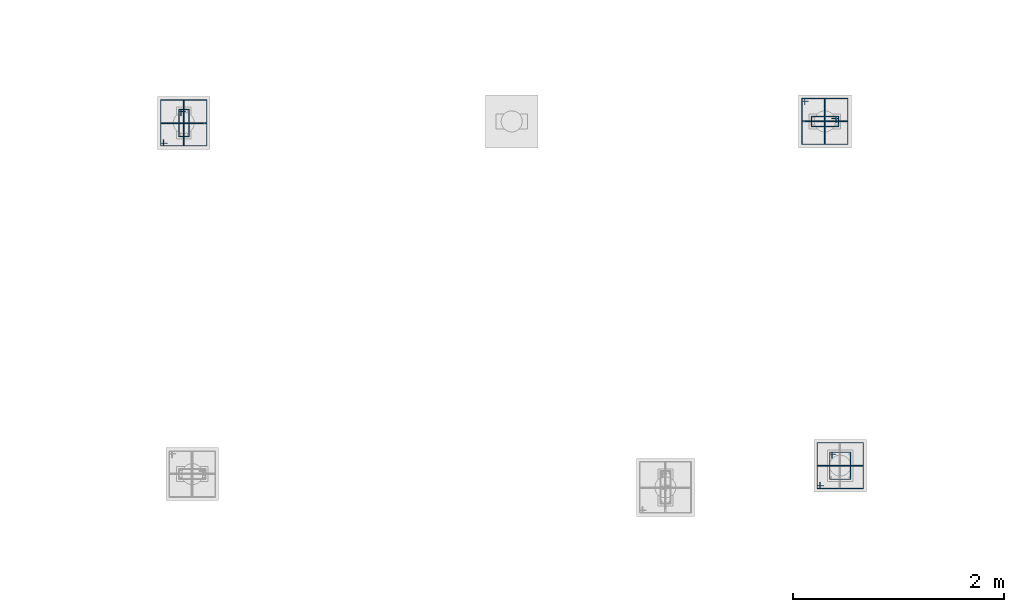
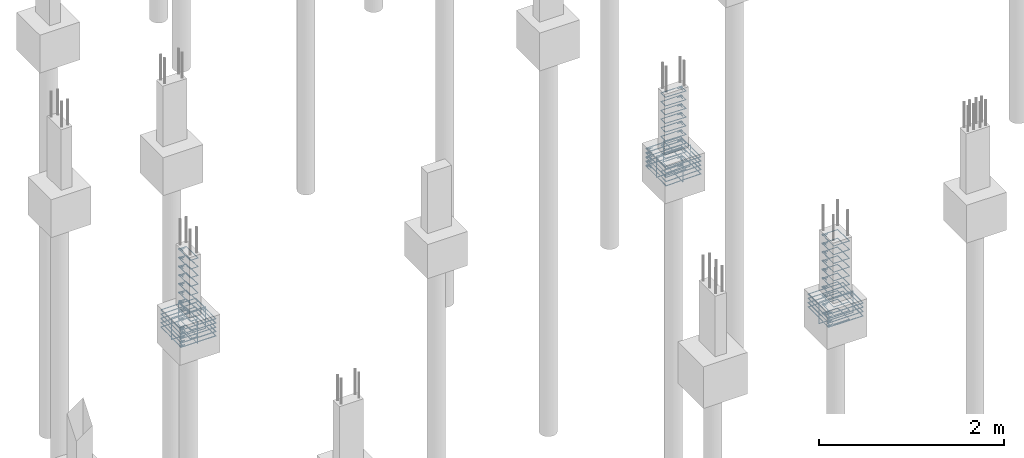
# One storey, part 92 of 119: 49 reinforcing bars.
"""IFC4 building model written with IfcOpenShell, lengths in centimetres."""

import ifcopenshell
import ifcopenshell.guid

model = None  # the IFC model being written
_history = None  # IfcOwnerHistory: only IFC2X3 demands one
_inside = {}  # id of a spatial element -> (the spatial element, [elements in it])
_under = {}  # id of a project, library or spatial element -> (it, [spatial elements below it])
_declared = {}  # id of a project -> (the project, [libraries it declares])
_typed = {}  # id of a type object -> (the type object, [elements of that type])
_made_of = {}  # id of a material, layer set ... -> (it, [elements and type objects made of it])


def new_model(schema):
    """Start an empty IFC model of exactly this schema.

    Asked for "IFC4X3", IfcOpenShell would pick the latest addendum, in which some entities
    have other attributes; the version numbers below select the first issue.
    IFC2X3 requires an IfcOwnerHistory on every rooted entity: one is made here for all.
    """
    global model, _history
    if schema == "IFC4X3":
        model = ifcopenshell.file(schema_version=(4, 3, 0, 0))
    else:
        model = ifcopenshell.file(schema=schema)
    _inside.clear()
    _under.clear()
    _declared.clear()
    _typed.clear()
    _made_of.clear()
    _history = None
    if model.schema == "IFC2X3":
        org = make("IfcOrganization", Name="unknown")
        user = make(
            "IfcPersonAndOrganization",
            ThePerson=make("IfcPerson", FamilyName="unknown"),
            TheOrganization=org,
        )
        app = make(
            "IfcApplication",
            ApplicationDeveloper=org,
            Version="unknown",
            ApplicationFullName="unknown",
            ApplicationIdentifier="unknown",
        )
        _history = make(
            "IfcOwnerHistory",
            OwningUser=user,
            OwningApplication=app,
            ChangeAction="ADDED",
            CreationDate=0,
        )
    return model


def make(cls, **values):
    """One entity of the class cls with the attributes given. An attribute that is None is left unset."""
    return model.create_entity(
        cls, **{name: value for name, value in values.items() if value is not None}
    )


def entity(cls, *values):
    """Any entity or typed value of the class cls, its attributes in the order of the schema. None: left unset."""
    e = model.create_entity(cls)
    for i, value in enumerate(values):
        if value is not None:
            e[i] = value
    return e


def rooted(cls, **values):
    """An entity with a GlobalId (a new one), such as an element, a storey or a relation."""
    return make(cls, GlobalId=ifcopenshell.guid.new(), OwnerHistory=_history, **values)


def si_unit(unit_type, name, prefix=None):
    """IfcSIUnit, for example si_unit("LENGTHUNIT", "METRE", prefix="MILLI")."""
    return make("IfcSIUnit", UnitType=unit_type, Prefix=prefix, Name=name)


def derived_unit(unit_type, elements):
    """IfcDerivedUnit: a product of units, each with its exponent."""
    return make(
        "IfcDerivedUnit",
        Elements=[
            make("IfcDerivedUnitElement", Unit=unit, Exponent=power)
            for unit, power in elements
        ],
        UnitType=unit_type,
    )


def assignment(units):
    """IfcUnitAssignment: the units of a project."""
    return None if units is None else make("IfcUnitAssignment", Units=units)


def point(xyz):
    """IfcCartesianPoint."""
    return None if xyz is None else make("IfcCartesianPoint", Coordinates=xyz)


def direction(xyz):
    """IfcDirection."""
    return None if xyz is None else make("IfcDirection", DirectionRatios=xyz)


def frame(location, z_axis=None, x_axis=None):
    """IfcAxis2Placement3D, a coordinate frame: its origin and axes. An axis left out is left unset."""
    return make(
        "IfcAxis2Placement3D",
        Location=point(location),
        Axis=direction(z_axis),
        RefDirection=direction(x_axis),
    )


def origin_with_axes():
    """The frame at (0, 0, 0) with the z axis (0, 0, 1) and the x axis (1, 0, 0) written out."""
    return frame((0.0, 0.0, 0.0), z_axis=(0.0, 0.0, 1.0), x_axis=(1.0, 0.0, 0.0))


def place(relative_to, where):
    """IfcLocalPlacement: puts the frame where relative to a parent placement (None: the world)."""
    return make(
        "IfcLocalPlacement", PlacementRelTo=relative_to, RelativePlacement=where
    )


def context(
    kind, dimensions, precision=None, world=None, true_north=None, identifier=None
):
    """IfcGeometricRepresentationContext, for example the 3D "Model" context."""
    return make(
        "IfcGeometricRepresentationContext",
        ContextIdentifier=identifier,
        ContextType=kind,
        CoordinateSpaceDimension=dimensions,
        Precision=precision,
        WorldCoordinateSystem=world,
        TrueNorth=true_north,
    )


def project(units=None, contexts=None):
    """IfcProject with its units and contexts."""
    return rooted(
        "IfcProject",
        Name="project",
        RepresentationContexts=contexts,
        UnitsInContext=assignment(units),
    )


def spatial(cls, under=None, at=None, **own):
    """A site, building, storey or space (cls), placed at a placement, below another one or the project."""
    s = rooted(cls, ObjectPlacement=at, **own)
    if under is not None:
        _under.setdefault(under.id(), (under, []))[1].append(s)
    return s


def shape(context_of_items, identifier, shape_type, items):
    """IfcShapeRepresentation: the items that make up one representation, for example the "Body"."""
    return make(
        "IfcShapeRepresentation",
        ContextOfItems=context_of_items,
        RepresentationIdentifier=identifier,
        RepresentationType=shape_type,
        Items=items,
    )


def source(mapping_origin, context_of_items, identifier, shape_type, items):
    """IfcRepresentationMap: a shape defined once, which mapped items show again and again."""
    return make(
        "IfcRepresentationMap",
        MappingOrigin=mapping_origin,
        MappedRepresentation=shape(context_of_items, identifier, shape_type, items),
    )


def transform(
    local_origin,
    x_axis=None,
    y_axis=None,
    z_axis=None,
    scale=None,
    scale2=None,
    scale3=None,
    uniform=True,
):
    """IfcCartesianTransformationOperator3D, or its non-uniform kind. x_axis, y_axis, z_axis: its Axis1, 2, 3."""
    if uniform:
        return make(
            "IfcCartesianTransformationOperator3D",
            Axis1=direction(x_axis),
            Axis2=direction(y_axis),
            LocalOrigin=point(local_origin),
            Scale=scale,
            Axis3=direction(z_axis),
        )
    return make(
        "IfcCartesianTransformationOperator3DnonUniform",
        Axis1=direction(x_axis),
        Axis2=direction(y_axis),
        LocalOrigin=point(local_origin),
        Scale=scale,
        Axis3=direction(z_axis),
        Scale2=scale2,
        Scale3=scale3,
    )


def mapped(mapping_source, mapping_target):
    """IfcMappedItem: shows the shape of a source again, moved by a transform."""
    return make(
        "IfcMappedItem", MappingSource=mapping_source, MappingTarget=mapping_target
    )


def made_of(thing, what):
    """Note that an element or type object is made of a material, layer set ...; save() writes the relation."""
    if what is not None:
        _made_of.setdefault(what.id(), (what, []))[1].append(thing)
    return thing


def element(
    cls,
    number,
    at=None,
    inside=None,
    cuts=None,
    type_object=None,
    material=None,
    context=None,
    identifier="Body",
    shape_type=None,
    held_by="IfcProductDefinitionShape",
    body=None,
    shapes=None,
    **own,
):
    """One element of the class cls, such as IfcWall. Its Tag is "e" and its number.

    at: its placement. inside: the storey or other place that contains it. cuts: it is an
    opening in that element (IfcRelVoidsElement). A single representation is given by context,
    identifier, shape_type and body (its items); several are given by shapes. held_by: the class
    of the entity that holds the representations. save() writes the other relations.
    """
    e = rooted(cls, Tag="e%d" % number, ObjectPlacement=at, **own)
    if body is not None:
        shapes = [shape(context, identifier, shape_type, body)]
    if shapes is not None:
        e.Representation = make(held_by, Representations=shapes)
    if inside is not None:
        _inside.setdefault(inside.id(), (inside, []))[1].append(e)
    if cuts is not None:
        rooted(
            "IfcRelVoidsElement", RelatingBuildingElement=cuts, RelatedOpeningElement=e
        )
    if type_object is not None:
        _typed.setdefault(type_object.id(), (type_object, []))[1].append(e)
    return made_of(e, material)


def aggregate(whole, parts):
    """IfcRelAggregates: a whole, such as a stair, and the parts it consists of."""
    return rooted("IfcRelAggregates", RelatingObject=whole, RelatedObjects=parts)


def save(model, path):
    """Write the relations noted so far, then the file.

    IfcRelAggregates (storeys below a building ...), IfcRelContainedInSpatialStructure (elements
    in a storey), IfcRelDefinesByType, IfcRelAssociatesMaterial and IfcRelDeclares: one each for
    every whole, place, type object, material and project.
    """
    for whole, parts in _under.values():
        aggregate(whole, parts)
    for where, things in _inside.values():
        rooted(
            "IfcRelContainedInSpatialStructure",
            RelatedElements=things,
            RelatingStructure=where,
        )
    for kind, things in _typed.values():
        rooted("IfcRelDefinesByType", RelatedObjects=things, RelatingType=kind)
    for what, things in _made_of.values():
        rooted("IfcRelAssociatesMaterial", RelatedObjects=things, RelatingMaterial=what)
    for by, libraries in _declared.values():
        rooted("IfcRelDeclares", RelatingContext=by, RelatedDefinitions=libraries)
    model.write(path)


model = new_model("IFC4")

# Units and contexts
model_context = context("Model", 3, precision=1e-05, world=origin_with_axes(), identifier="Body")
ifc_project = project(units=[si_unit("LENGTHUNIT", "METRE", prefix="CENTI"), si_unit("VOLUMEUNIT", "CUBIC_METRE"), si_unit("AREAUNIT", "SQUARE_METRE"), si_unit("POWERUNIT", "WATT"), si_unit("LUMINOUSFLUXUNIT", "LUMEN"), si_unit("ELECTRICCURRENTUNIT", "AMPERE"), si_unit("PRESSUREUNIT", "PASCAL", prefix="KILO"), si_unit("MASSUNIT", "GRAM", prefix="KILO"), si_unit("PLANEANGLEUNIT", "RADIAN"), derived_unit("VOLUMETRICFLOWRATEUNIT", [(si_unit("LENGTHUNIT", "METRE"), 3), (si_unit("TIMEUNIT", "SECOND"), -1)])], contexts=[model_context])

# Site, building, storey
site_placement = place(None, frame((-4000.0, 0.0, 0.0), z_axis=(0.0, 0.0, 1.0), x_axis=(1.0, 0.0, 0.0)))
site = spatial("IfcSite", under=ifc_project, at=site_placement, Name="PADRÃO")
building_placement = place(site_placement, frame((0.0, 0.0, -14.0)))
building = spatial("IfcBuilding", under=site, at=building_placement, Name="CRECHE PRÉ-ESCOLA TIPO 2")
storey_placement = place(building_placement, origin_with_axes())
storey = spatial("IfcBuildingStorey", under=building, at=storey_placement, Name="FUNDAÇÃO", CompositionType="ELEMENT", Elevation=-14.0)

# Reinforcing bars
shared_shape_1 = source(origin_with_axes(), model_context, "Body", "AdvancedSweptSolid", [
    entity("IfcSweptDiskSolid", entity("IfcCompositeCurve", [entity("IfcCompositeCurveSegment", "CONTINUOUS", True, entity("IfcPolyline", [entity("IfcCartesianPoint", [4.25, 21.75, 0.0]), entity("IfcCartesianPoint", [4.25, 27.75, 0.0])])), entity("IfcCompositeCurveSegment", "CONTINUOUS", True, entity("IfcPolyline", [entity("IfcCartesianPoint", [4.25, 27.75, 0.0]), entity("IfcCartesianPoint", [2.25, 27.75, 0.0])])), entity("IfcCompositeCurveSegment", "CONTINUOUS", True, entity("IfcPolyline", [entity("IfcCartesianPoint", [2.25, 27.75, 0.0]), entity("IfcCartesianPoint", [2.25, 2.25, 0.0])])), entity("IfcCompositeCurveSegment", "CONTINUOUS", True, entity("IfcPolyline", [entity("IfcCartesianPoint", [2.25, 2.25, 0.0]), entity("IfcCartesianPoint", [11.75, 2.25, 0.0])])), entity("IfcCompositeCurveSegment", "CONTINUOUS", True, entity("IfcPolyline", [entity("IfcCartesianPoint", [11.75, 2.25, 0.0]), entity("IfcCartesianPoint", [11.75, 27.75, -0.5])])), entity("IfcCompositeCurveSegment", "CONTINUOUS", True, entity("IfcPolyline", [entity("IfcCartesianPoint", [11.75, 27.75, -0.5]), entity("IfcCartesianPoint", [2.25, 27.75, -0.5])])), entity("IfcCompositeCurveSegment", "CONTINUOUS", True, entity("IfcPolyline", [entity("IfcCartesianPoint", [2.25, 27.75, -0.5]), entity("IfcCartesianPoint", [2.25, 25.75, -0.5])])), entity("IfcCompositeCurveSegment", "CONTINUOUS", True, entity("IfcPolyline", [entity("IfcCartesianPoint", [2.25, 25.75, -0.5]), entity("IfcCartesianPoint", [8.25, 25.75, -0.5])]))], False), 0.25),
])
for number, where, z_axis, x_axis, name in (
    (1, (2516.5, 2896.02, -74.75), (0.0, 0.0, 1.0), (1.0, 0.0, 0.0), "P60 - Estribo"),
    (2, (2516.5, 2896.02, -63.25), (0.0, 0.0, 1.0), (1.0, 0.0, 0.0), "P60 - Estribo"),
    (3, (2516.5, 2896.02, -40.25), (0.0, 0.0, 1.0), (1.0, 0.0, 0.0), "P60 - Estribo"),
    (4, (2516.5, 2896.02, -28.75), (0.0, 0.0, 1.0), (1.0, 0.0, 0.0), "P60 - Estribo"),
    (5, (2516.5, 2896.02, -17.25), (0.0, 0.0, 1.0), (1.0, 0.0, 0.0), "P60 - Estribo"),
    (6, (2516.5, 2896.02, -5.75), (0.0, 0.0, 1.0), (1.0, 0.0, 0.0), "P60 - Estribo"),
    (7, (2516.5, 2896.02, -51.75), (0.0, 0.0, 1.0), (1.0, 0.0, 0.0), "P60 - Estribo"),
    (8, (2516.5, 2896.02, -109.25), (0.0, 0.0, 1.0), (1.0, 0.0, 0.0), "P60 - Estribo"),
    (9, (2516.5, 2896.02, -97.75), (0.0, 0.0, 1.0), (1.0, 0.0, 0.0), "P60 - Estribo"),
    (10, (2516.5, 2896.02, -86.25), (0.0, 0.0, 1.0), (1.0, 0.0, 0.0), "P60 - Estribo"),
):
    element("IfcReinforcingBar", number, at=place(storey_placement, frame(where, z_axis=z_axis, x_axis=x_axis)), inside=storey, Name=name, BarLength=0.0, CrossSectionArea=1.9634954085e-05, NominalDiameter=0.5, PredefinedType="MAIN", context=model_context, shape_type="MappedRepresentation", body=[
        mapped(shared_shape_1, transform((0.0, 0.0, 0.0), scale=1.0)),
    ])
shared_shape_2 = source(origin_with_axes(), model_context, "Body", "AdvancedSweptSolid", [
    entity("IfcSweptDiskSolid", entity("IfcCompositeCurve", [entity("IfcCompositeCurveSegment", "CONTINUOUS", True, entity("IfcPolyline", [entity("IfcCartesianPoint", [2508.075, 2891.855, 0.0]), entity("IfcCartesianPoint", [2501.815, 2891.855, 0.0])])), entity("IfcCompositeCurveSegment", "CONTINUOUS", True, entity("IfcPolyline", [entity("IfcCartesianPoint", [2501.815, 2891.855, 0.0]), entity("IfcCartesianPoint", [2501.815, 2889.335, 0.0])])), entity("IfcCompositeCurveSegment", "CONTINUOUS", True, entity("IfcPolyline", [entity("IfcCartesianPoint", [2501.815, 2889.335, 0.0]), entity("IfcCartesianPoint", [2545.185, 2889.335, 0.0])])), entity("IfcCompositeCurveSegment", "CONTINUOUS", True, entity("IfcPolyline", [entity("IfcCartesianPoint", [2545.185, 2889.335, 0.0]), entity("IfcCartesianPoint", [2545.185, 2932.705, 0.63])])), entity("IfcCompositeCurveSegment", "CONTINUOUS", True, entity("IfcPolyline", [entity("IfcCartesianPoint", [2545.185, 2932.705, 0.63]), entity("IfcCartesianPoint", [2501.815, 2932.705, 0.63])])), entity("IfcCompositeCurveSegment", "CONTINUOUS", True, entity("IfcPolyline", [entity("IfcCartesianPoint", [2501.815, 2932.705, 0.63]), entity("IfcCartesianPoint", [2501.815, 2889.335, 0.63])])), entity("IfcCompositeCurveSegment", "CONTINUOUS", True, entity("IfcPolyline", [entity("IfcCartesianPoint", [2501.815, 2889.335, 0.63]), entity("IfcCartesianPoint", [2504.335, 2889.335, 0.63])])), entity("IfcCompositeCurveSegment", "CONTINUOUS", True, entity("IfcPolyline", [entity("IfcCartesianPoint", [2504.335, 2889.335, 0.63]), entity("IfcCartesianPoint", [2504.335, 2895.595, 0.63])]))], False), 0.315),
])
for number, where, z_axis, x_axis, name in (
    (11, (0.0, 0.0, -109.175), (0.0, 0.0, 1.0), (1.0, 0.0, 0.0), "P60 - Blocos (estribos)"),
    (12, (0.0, 0.0, -103.525), (0.0, 0.0, 1.0), (1.0, 0.0, 0.0), "P60 - Blocos (estribos)"),
    (13, (0.0, 0.0, -97.875), (0.0, 0.0, 1.0), (1.0, 0.0, 0.0), "P60 - Blocos (estribos)"),
    (14, (0.0, 0.0, -92.225), (0.0, 0.0, 1.0), (1.0, 0.0, 0.0), "P60 - Blocos (estribos)"),
    (15, (0.0, 0.0, -86.575), (0.0, 0.0, 1.0), (1.0, 0.0, 0.0), "P60 - Blocos (estribos)"),
):
    element("IfcReinforcingBar", number, at=place(storey_placement, frame(where, z_axis=z_axis, x_axis=x_axis)), inside=storey, Name=name, BarLength=0.0, CrossSectionArea=3.1172453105e-05, NominalDiameter=0.63, PredefinedType="MAIN", context=model_context, shape_type="MappedRepresentation", body=[
        mapped(shared_shape_2, transform((0.0, 0.0, 0.0), scale=1.0)),
    ])
shared_shape_3 = source(origin_with_axes(), model_context, "Body", "AdvancedSweptSolid", [
    entity("IfcSweptDiskSolid", entity("IfcCompositeCurve", [entity("IfcCompositeCurveSegment", "CONTINUOUS", True, entity("IfcPolyline", [entity("IfcCartesianPoint", [-15.12, -12.0, 0.0]), entity("IfcCartesianPoint", [-21.12, -12.0, 0.0])])), entity("IfcCompositeCurveSegment", "CONTINUOUS", True, entity("IfcPolyline", [entity("IfcCartesianPoint", [-21.12, -12.0, 0.0]), entity("IfcCartesianPoint", [-21.12, -14.0, 0.0])])), entity("IfcCompositeCurveSegment", "CONTINUOUS", True, entity("IfcPolyline", [entity("IfcCartesianPoint", [-21.12, -14.0, 0.0]), entity("IfcCartesianPoint", [21.12, -14.0, 0.0])])), entity("IfcCompositeCurveSegment", "CONTINUOUS", True, entity("IfcPolyline", [entity("IfcCartesianPoint", [21.12, -14.0, 0.0]), entity("IfcCartesianPoint", [21.12, 14.0, 0.5])])), entity("IfcCompositeCurveSegment", "CONTINUOUS", True, entity("IfcPolyline", [entity("IfcCartesianPoint", [21.12, 14.0, 0.5]), entity("IfcCartesianPoint", [-21.12, 14.0, 0.5])])), entity("IfcCompositeCurveSegment", "CONTINUOUS", True, entity("IfcPolyline", [entity("IfcCartesianPoint", [-21.12, 14.0, 0.5]), entity("IfcCartesianPoint", [-21.12, -14.0, 0.5])])), entity("IfcCompositeCurveSegment", "CONTINUOUS", True, entity("IfcPolyline", [entity("IfcCartesianPoint", [-21.12, -14.0, 0.5]), entity("IfcCartesianPoint", [-19.12, -14.0, 0.5])])), entity("IfcCompositeCurveSegment", "CONTINUOUS", True, entity("IfcPolyline", [entity("IfcCartesianPoint", [-19.12, -14.0, 0.5]), entity("IfcCartesianPoint", [-19.12, -8.0, 0.5])]))], False), 0.25),
])
reinforcing_bar_1_placement = place(storey_placement, frame((2523.5, 2911.02, -97.75), z_axis=(-1.0, 0.0, 0.0), x_axis=(0.0, 1.0, 0.0)))
element("IfcReinforcingBar", 16, at=reinforcing_bar_1_placement, inside=storey, Name="P60 - Blocos (estribos)", BarLength=0.0, CrossSectionArea=1.9634954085e-05, NominalDiameter=0.5, PredefinedType="MAIN", context=model_context, shape_type="MappedRepresentation", body=[
    mapped(shared_shape_3, transform((0.0, 0.0, 0.0), scale=1.0)),
])
shared_shape_4 = source(origin_with_axes(), model_context, "Body", "AdvancedSweptSolid", [
    entity("IfcSweptDiskSolid", entity("IfcCompositeCurve", [entity("IfcCompositeCurveSegment", "CONTINUOUS", True, entity("IfcPolyline", [entity("IfcCartesianPoint", [-15.12, -12.0, 0.0]), entity("IfcCartesianPoint", [-21.12, -12.0, 0.0])])), entity("IfcCompositeCurveSegment", "CONTINUOUS", True, entity("IfcPolyline", [entity("IfcCartesianPoint", [-21.12, -12.0, 0.0]), entity("IfcCartesianPoint", [-21.12, -14.0, 0.0])])), entity("IfcCompositeCurveSegment", "CONTINUOUS", True, entity("IfcPolyline", [entity("IfcCartesianPoint", [-21.12, -14.0, 0.0]), entity("IfcCartesianPoint", [21.12, -14.0, 0.0])])), entity("IfcCompositeCurveSegment", "CONTINUOUS", True, entity("IfcPolyline", [entity("IfcCartesianPoint", [21.12, -14.0, 0.0]), entity("IfcCartesianPoint", [21.12, 14.0, 0.5])])), entity("IfcCompositeCurveSegment", "CONTINUOUS", True, entity("IfcPolyline", [entity("IfcCartesianPoint", [21.12, 14.0, 0.5]), entity("IfcCartesianPoint", [-21.12, 14.0, 0.5])])), entity("IfcCompositeCurveSegment", "CONTINUOUS", True, entity("IfcPolyline", [entity("IfcCartesianPoint", [-21.12, 14.0, 0.5]), entity("IfcCartesianPoint", [-21.12, -14.0, 0.5])])), entity("IfcCompositeCurveSegment", "CONTINUOUS", True, entity("IfcPolyline", [entity("IfcCartesianPoint", [-21.12, -14.0, 0.5]), entity("IfcCartesianPoint", [-19.12, -14.0, 0.5])])), entity("IfcCompositeCurveSegment", "CONTINUOUS", True, entity("IfcPolyline", [entity("IfcCartesianPoint", [-19.12, -14.0, 0.5]), entity("IfcCartesianPoint", [-19.12, -8.0, 0.5])]))], False), 0.25),
])
reinforcing_bar_2_placement = place(storey_placement, frame((2523.5, 2911.02, -97.75), z_axis=(0.0, -1.0, 0.0), x_axis=(-1.0, 0.0, 0.0)))
element("IfcReinforcingBar", 17, at=reinforcing_bar_2_placement, inside=storey, Name="P60 - Blocos (estribos)", BarLength=0.0, CrossSectionArea=1.9634954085e-05, NominalDiameter=0.5, PredefinedType="MAIN", context=model_context, shape_type="MappedRepresentation", body=[
    mapped(shared_shape_4, transform((0.0, 0.0, 0.0), scale=1.0)),
])
shared_shape_5 = source(origin_with_axes(), model_context, "Body", "AdvancedSweptSolid", [
    entity("IfcSweptDiskSolid", entity("IfcCompositeCurve", [entity("IfcCompositeCurveSegment", "CONTINUOUS", True, entity("IfcPolyline", [entity("IfcCartesianPoint", [4.25, 21.75, 0.0]), entity("IfcCartesianPoint", [4.25, 27.75, 0.0])])), entity("IfcCompositeCurveSegment", "CONTINUOUS", True, entity("IfcPolyline", [entity("IfcCartesianPoint", [4.25, 27.75, 0.0]), entity("IfcCartesianPoint", [2.25, 27.75, 0.0])])), entity("IfcCompositeCurveSegment", "CONTINUOUS", True, entity("IfcPolyline", [entity("IfcCartesianPoint", [2.25, 27.75, 0.0]), entity("IfcCartesianPoint", [2.25, 2.25, 0.0])])), entity("IfcCompositeCurveSegment", "CONTINUOUS", True, entity("IfcPolyline", [entity("IfcCartesianPoint", [2.25, 2.25, 0.0]), entity("IfcCartesianPoint", [21.75, 2.25, 0.0])])), entity("IfcCompositeCurveSegment", "CONTINUOUS", True, entity("IfcPolyline", [entity("IfcCartesianPoint", [21.75, 2.25, 0.0]), entity("IfcCartesianPoint", [21.75, 27.75, -0.5])])), entity("IfcCompositeCurveSegment", "CONTINUOUS", True, entity("IfcPolyline", [entity("IfcCartesianPoint", [21.75, 27.75, -0.5]), entity("IfcCartesianPoint", [2.25, 27.75, -0.5])])), entity("IfcCompositeCurveSegment", "CONTINUOUS", True, entity("IfcPolyline", [entity("IfcCartesianPoint", [2.25, 27.75, -0.5]), entity("IfcCartesianPoint", [2.25, 25.75, -0.5])])), entity("IfcCompositeCurveSegment", "CONTINUOUS", True, entity("IfcPolyline", [entity("IfcCartesianPoint", [2.25, 25.75, -0.5]), entity("IfcCartesianPoint", [8.25, 25.75, -0.5])]))], False), 0.25),
])
for number, where, z_axis, x_axis, name in (
    (18, (3133.02, 2571.52, -97.75), (0.0, 0.0, 1.0), (1.0, 0.0, 0.0), "P74 - Estribo"),
    (19, (3133.02, 2571.52, -86.25), (0.0, 0.0, 1.0), (1.0, 0.0, 0.0), "P74 - Estribo"),
    (20, (3133.02, 2571.52, -74.75), (0.0, 0.0, 1.0), (1.0, 0.0, 0.0), "P74 - Estribo"),
    (21, (3133.02, 2571.52, -63.25), (0.0, 0.0, 1.0), (1.0, 0.0, 0.0), "P74 - Estribo"),
    (22, (3133.02, 2571.52, -51.75), (0.0, 0.0, 1.0), (1.0, 0.0, 0.0), "P74 - Estribo"),
    (23, (3133.02, 2571.52, -40.25), (0.0, 0.0, 1.0), (1.0, 0.0, 0.0), "P74 - Estribo"),
    (24, (3133.02, 2571.52, -28.75), (0.0, 0.0, 1.0), (1.0, 0.0, 0.0), "P74 - Estribo"),
    (25, (3133.02, 2571.52, -17.25), (0.0, 0.0, 1.0), (1.0, 0.0, 0.0), "P74 - Estribo"),
    (26, (3133.02, 2571.52, -5.75), (0.0, 0.0, 1.0), (1.0, 0.0, 0.0), "P74 - Estribo"),
    (27, (3133.02, 2571.52, -109.25), (0.0, 0.0, 1.0), (1.0, 0.0, 0.0), "P74 - Estribo"),
):
    element("IfcReinforcingBar", number, at=place(storey_placement, frame(where, z_axis=z_axis, x_axis=x_axis)), inside=storey, Name=name, BarLength=0.0, CrossSectionArea=1.9634954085e-05, NominalDiameter=0.5, PredefinedType="MAIN", context=model_context, shape_type="MappedRepresentation", body=[
        mapped(shared_shape_5, transform((0.0, 0.0, 0.0), scale=1.0)),
    ])
shared_shape_6 = source(origin_with_axes(), model_context, "Body", "AdvancedSweptSolid", [
    entity("IfcSweptDiskSolid", entity("IfcCompositeCurve", [entity("IfcCompositeCurveSegment", "CONTINUOUS", True, entity("IfcPolyline", [entity("IfcCartesianPoint", [3129.595, 2567.355, 0.0]), entity("IfcCartesianPoint", [3123.335, 2567.355, 0.0])])), entity("IfcCompositeCurveSegment", "CONTINUOUS", True, entity("IfcPolyline", [entity("IfcCartesianPoint", [3123.335, 2567.355, 0.0]), entity("IfcCartesianPoint", [3123.335, 2564.835, 0.0])])), entity("IfcCompositeCurveSegment", "CONTINUOUS", True, entity("IfcPolyline", [entity("IfcCartesianPoint", [3123.335, 2564.835, 0.0]), entity("IfcCartesianPoint", [3166.705, 2564.835, 0.0])])), entity("IfcCompositeCurveSegment", "CONTINUOUS", True, entity("IfcPolyline", [entity("IfcCartesianPoint", [3166.705, 2564.835, 0.0]), entity("IfcCartesianPoint", [3166.705, 2608.205, 0.63])])), entity("IfcCompositeCurveSegment", "CONTINUOUS", True, entity("IfcPolyline", [entity("IfcCartesianPoint", [3166.705, 2608.205, 0.63]), entity("IfcCartesianPoint", [3123.335, 2608.205, 0.63])])), entity("IfcCompositeCurveSegment", "CONTINUOUS", True, entity("IfcPolyline", [entity("IfcCartesianPoint", [3123.335, 2608.205, 0.63]), entity("IfcCartesianPoint", [3123.335, 2564.835, 0.63])])), entity("IfcCompositeCurveSegment", "CONTINUOUS", True, entity("IfcPolyline", [entity("IfcCartesianPoint", [3123.335, 2564.835, 0.63]), entity("IfcCartesianPoint", [3125.855, 2564.835, 0.63])])), entity("IfcCompositeCurveSegment", "CONTINUOUS", True, entity("IfcPolyline", [entity("IfcCartesianPoint", [3125.855, 2564.835, 0.63]), entity("IfcCartesianPoint", [3125.855, 2571.095, 0.63])]))], False), 0.315),
])
for number, where, z_axis, x_axis, name in (
    (28, (0.0, 0.0, -86.575), (0.0, 0.0, 1.0), (1.0, 0.0, 0.0), "P74 - Blocos (estribos)"),
    (29, (0.0, 0.0, -92.225), (0.0, 0.0, 1.0), (1.0, 0.0, 0.0), "P74 - Blocos (estribos)"),
    (30, (0.0, 0.0, -97.875), (0.0, 0.0, 1.0), (1.0, 0.0, 0.0), "P74 - Blocos (estribos)"),
    (31, (0.0, 0.0, -103.525), (0.0, 0.0, 1.0), (1.0, 0.0, 0.0), "P74 - Blocos (estribos)"),
):
    element("IfcReinforcingBar", number, at=place(storey_placement, frame(where, z_axis=z_axis, x_axis=x_axis)), inside=storey, Name=name, BarLength=0.0, CrossSectionArea=3.1172453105e-05, NominalDiameter=0.63, PredefinedType="MAIN", context=model_context, shape_type="MappedRepresentation", body=[
        mapped(shared_shape_6, transform((0.0, 0.0, 0.0), scale=1.0)),
    ])
shared_shape_7 = source(origin_with_axes(), model_context, "Body", "AdvancedSweptSolid", [
    entity("IfcSweptDiskSolid", entity("IfcCompositeCurve", [entity("IfcCompositeCurveSegment", "CONTINUOUS", True, entity("IfcPolyline", [entity("IfcCartesianPoint", [-15.12, -12.0, 0.0]), entity("IfcCartesianPoint", [-21.12, -12.0, 0.0])])), entity("IfcCompositeCurveSegment", "CONTINUOUS", True, entity("IfcPolyline", [entity("IfcCartesianPoint", [-21.12, -12.0, 0.0]), entity("IfcCartesianPoint", [-21.12, -14.0, 0.0])])), entity("IfcCompositeCurveSegment", "CONTINUOUS", True, entity("IfcPolyline", [entity("IfcCartesianPoint", [-21.12, -14.0, 0.0]), entity("IfcCartesianPoint", [21.12, -14.0, 0.0])])), entity("IfcCompositeCurveSegment", "CONTINUOUS", True, entity("IfcPolyline", [entity("IfcCartesianPoint", [21.12, -14.0, 0.0]), entity("IfcCartesianPoint", [21.12, 14.0, 0.5])])), entity("IfcCompositeCurveSegment", "CONTINUOUS", True, entity("IfcPolyline", [entity("IfcCartesianPoint", [21.12, 14.0, 0.5]), entity("IfcCartesianPoint", [-21.12, 14.0, 0.5])])), entity("IfcCompositeCurveSegment", "CONTINUOUS", True, entity("IfcPolyline", [entity("IfcCartesianPoint", [-21.12, 14.0, 0.5]), entity("IfcCartesianPoint", [-21.12, -14.0, 0.5])])), entity("IfcCompositeCurveSegment", "CONTINUOUS", True, entity("IfcPolyline", [entity("IfcCartesianPoint", [-21.12, -14.0, 0.5]), entity("IfcCartesianPoint", [-19.12, -14.0, 0.5])])), entity("IfcCompositeCurveSegment", "CONTINUOUS", True, entity("IfcPolyline", [entity("IfcCartesianPoint", [-19.12, -14.0, 0.5]), entity("IfcCartesianPoint", [-19.12, -8.0, 0.5])]))], False), 0.25),
])
reinforcing_bar_3_placement = place(storey_placement, frame((3145.02, 2586.52, -97.75), z_axis=(0.0, -1.0, 0.0), x_axis=(-1.0, 0.0, 0.0)))
element("IfcReinforcingBar", 32, at=reinforcing_bar_3_placement, inside=storey, Name="P74 - Blocos (estribos)", BarLength=0.0, CrossSectionArea=1.9634954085e-05, NominalDiameter=0.5, PredefinedType="MAIN", context=model_context, shape_type="MappedRepresentation", body=[
    mapped(shared_shape_7, transform((0.0, 0.0, 0.0), scale=1.0)),
])
shared_shape_8 = source(origin_with_axes(), model_context, "Body", "AdvancedSweptSolid", [
    entity("IfcSweptDiskSolid", entity("IfcCompositeCurve", [entity("IfcCompositeCurveSegment", "CONTINUOUS", True, entity("IfcPolyline", [entity("IfcCartesianPoint", [4.25, 21.75, 0.0]), entity("IfcCartesianPoint", [4.25, 27.75, 0.0])])), entity("IfcCompositeCurveSegment", "CONTINUOUS", True, entity("IfcPolyline", [entity("IfcCartesianPoint", [4.25, 27.75, 0.0]), entity("IfcCartesianPoint", [2.25, 27.75, 0.0])])), entity("IfcCompositeCurveSegment", "CONTINUOUS", True, entity("IfcPolyline", [entity("IfcCartesianPoint", [2.25, 27.75, 0.0]), entity("IfcCartesianPoint", [2.25, 2.25, 0.0])])), entity("IfcCompositeCurveSegment", "CONTINUOUS", True, entity("IfcPolyline", [entity("IfcCartesianPoint", [2.25, 2.25, 0.0]), entity("IfcCartesianPoint", [11.75, 2.25, 0.0])])), entity("IfcCompositeCurveSegment", "CONTINUOUS", True, entity("IfcPolyline", [entity("IfcCartesianPoint", [11.75, 2.25, 0.0]), entity("IfcCartesianPoint", [11.75, 27.75, -0.5])])), entity("IfcCompositeCurveSegment", "CONTINUOUS", True, entity("IfcPolyline", [entity("IfcCartesianPoint", [11.75, 27.75, -0.5]), entity("IfcCartesianPoint", [2.25, 27.75, -0.5])])), entity("IfcCompositeCurveSegment", "CONTINUOUS", True, entity("IfcPolyline", [entity("IfcCartesianPoint", [2.25, 27.75, -0.5]), entity("IfcCartesianPoint", [2.25, 25.75, -0.5])])), entity("IfcCompositeCurveSegment", "CONTINUOUS", True, entity("IfcPolyline", [entity("IfcCartesianPoint", [2.25, 25.75, -0.5]), entity("IfcCartesianPoint", [8.25, 25.75, -0.5])]))], False), 0.25),
])
for number, where, z_axis, x_axis, name in (
    (33, (3115.5, 2919.52, -28.75), (0.0, 0.0, 1.0), (0.0, -1.0, 0.0), "P62 - Estribo"),
    (34, (3115.5, 2919.52, -17.25), (0.0, 0.0, 1.0), (0.0, -1.0, 0.0), "P62 - Estribo"),
    (35, (3115.5, 2919.52, -5.75), (0.0, 0.0, 1.0), (0.0, -1.0, 0.0), "P62 - Estribo"),
    (36, (3115.5, 2919.52, -97.75), (0.0, 0.0, 1.0), (0.0, -1.0, 0.0), "P62 - Estribo"),
    (37, (3115.5, 2919.52, -109.25), (0.0, 0.0, 1.0), (0.0, -1.0, 0.0), "P62 - Estribo"),
    (38, (3115.5, 2919.52, -86.25), (0.0, 0.0, 1.0), (0.0, -1.0, 0.0), "P62 - Estribo"),
    (39, (3115.5, 2919.52, -74.75), (0.0, 0.0, 1.0), (0.0, -1.0, 0.0), "P62 - Estribo"),
    (40, (3115.5, 2919.52, -63.25), (0.0, 0.0, 1.0), (0.0, -1.0, 0.0), "P62 - Estribo"),
    (41, (3115.5, 2919.52, -51.75), (0.0, 0.0, 1.0), (0.0, -1.0, 0.0), "P62 - Estribo"),
    (42, (3115.5, 2919.52, -40.25), (0.0, 0.0, 1.0), (0.0, -1.0, 0.0), "P62 - Estribo"),
):
    element("IfcReinforcingBar", number, at=place(storey_placement, frame(where, z_axis=z_axis, x_axis=x_axis)), inside=storey, Name=name, BarLength=0.0, CrossSectionArea=1.9634954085e-05, NominalDiameter=0.5, PredefinedType="MAIN", context=model_context, shape_type="MappedRepresentation", body=[
        mapped(shared_shape_8, transform((0.0, 0.0, 0.0), scale=1.0)),
    ])
shared_shape_9 = source(origin_with_axes(), model_context, "Body", "AdvancedSweptSolid", [
    entity("IfcSweptDiskSolid", entity("IfcCompositeCurve", [entity("IfcCompositeCurveSegment", "CONTINUOUS", True, entity("IfcPolyline", [entity("IfcCartesianPoint", [3111.335, 2927.945, 0.0]), entity("IfcCartesianPoint", [3111.335, 2934.205, 0.0])])), entity("IfcCompositeCurveSegment", "CONTINUOUS", True, entity("IfcPolyline", [entity("IfcCartesianPoint", [3111.335, 2934.205, 0.0]), entity("IfcCartesianPoint", [3108.815, 2934.205, 0.0])])), entity("IfcCompositeCurveSegment", "CONTINUOUS", True, entity("IfcPolyline", [entity("IfcCartesianPoint", [3108.815, 2934.205, 0.0]), entity("IfcCartesianPoint", [3108.815, 2890.835, 0.0])])), entity("IfcCompositeCurveSegment", "CONTINUOUS", True, entity("IfcPolyline", [entity("IfcCartesianPoint", [3108.815, 2890.835, 0.0]), entity("IfcCartesianPoint", [3152.185, 2890.835, 0.63])])), entity("IfcCompositeCurveSegment", "CONTINUOUS", True, entity("IfcPolyline", [entity("IfcCartesianPoint", [3152.185, 2890.835, 0.63]), entity("IfcCartesianPoint", [3152.185, 2934.205, 0.63])])), entity("IfcCompositeCurveSegment", "CONTINUOUS", True, entity("IfcPolyline", [entity("IfcCartesianPoint", [3152.185, 2934.205, 0.63]), entity("IfcCartesianPoint", [3108.815, 2934.205, 0.63])])), entity("IfcCompositeCurveSegment", "CONTINUOUS", True, entity("IfcPolyline", [entity("IfcCartesianPoint", [3108.815, 2934.205, 0.63]), entity("IfcCartesianPoint", [3108.815, 2931.685, 0.63])])), entity("IfcCompositeCurveSegment", "CONTINUOUS", True, entity("IfcPolyline", [entity("IfcCartesianPoint", [3108.815, 2931.685, 0.63]), entity("IfcCartesianPoint", [3115.075, 2931.685, 0.63])]))], False), 0.315),
])
for number, where, z_axis, x_axis, name in (
    (43, (0.0, 0.0, -86.575), (0.0, 0.0, 1.0), (1.0, 0.0, 0.0), "P62 - Blocos (estribos)"),
    (44, (0.0, 0.0, -97.875), (0.0, 0.0, 1.0), (1.0, 0.0, 0.0), "P62 - Blocos (estribos)"),
    (45, (0.0, 0.0, -92.225), (0.0, 0.0, 1.0), (1.0, 0.0, 0.0), "P62 - Blocos (estribos)"),
    (46, (0.0, 0.0, -103.525), (0.0, 0.0, 1.0), (1.0, 0.0, 0.0), "P62 - Blocos (estribos)"),
    (47, (0.0, 0.0, -109.175), (0.0, 0.0, 1.0), (1.0, 0.0, 0.0), "P62 - Blocos (estribos)"),
):
    element("IfcReinforcingBar", number, at=place(storey_placement, frame(where, z_axis=z_axis, x_axis=x_axis)), inside=storey, Name=name, BarLength=0.0, CrossSectionArea=3.1172453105e-05, NominalDiameter=0.63, PredefinedType="MAIN", context=model_context, shape_type="MappedRepresentation", body=[
        mapped(shared_shape_9, transform((0.0, 0.0, 0.0), scale=1.0)),
    ])
shared_shape_10 = source(origin_with_axes(), model_context, "Body", "AdvancedSweptSolid", [
    entity("IfcSweptDiskSolid", entity("IfcCompositeCurve", [entity("IfcCompositeCurveSegment", "CONTINUOUS", True, entity("IfcPolyline", [entity("IfcCartesianPoint", [-15.12, -12.0, 0.0]), entity("IfcCartesianPoint", [-21.12, -12.0, 0.0])])), entity("IfcCompositeCurveSegment", "CONTINUOUS", True, entity("IfcPolyline", [entity("IfcCartesianPoint", [-21.12, -12.0, 0.0]), entity("IfcCartesianPoint", [-21.12, -14.0, 0.0])])), entity("IfcCompositeCurveSegment", "CONTINUOUS", True, entity("IfcPolyline", [entity("IfcCartesianPoint", [-21.12, -14.0, 0.0]), entity("IfcCartesianPoint", [21.12, -14.0, 0.0])])), entity("IfcCompositeCurveSegment", "CONTINUOUS", True, entity("IfcPolyline", [entity("IfcCartesianPoint", [21.12, -14.0, 0.0]), entity("IfcCartesianPoint", [21.12, 14.0, 0.5])])), entity("IfcCompositeCurveSegment", "CONTINUOUS", True, entity("IfcPolyline", [entity("IfcCartesianPoint", [21.12, 14.0, 0.5]), entity("IfcCartesianPoint", [-21.12, 14.0, 0.5])])), entity("IfcCompositeCurveSegment", "CONTINUOUS", True, entity("IfcPolyline", [entity("IfcCartesianPoint", [-21.12, 14.0, 0.5]), entity("IfcCartesianPoint", [-21.12, -14.0, 0.5])])), entity("IfcCompositeCurveSegment", "CONTINUOUS", True, entity("IfcPolyline", [entity("IfcCartesianPoint", [-21.12, -14.0, 0.5]), entity("IfcCartesianPoint", [-19.12, -14.0, 0.5])])), entity("IfcCompositeCurveSegment", "CONTINUOUS", True, entity("IfcPolyline", [entity("IfcCartesianPoint", [-19.12, -14.0, 0.5]), entity("IfcCartesianPoint", [-19.12, -8.0, 0.5])]))], False), 0.25),
])
reinforcing_bar_4_placement = place(storey_placement, frame((3130.5, 2912.52, -97.75), z_axis=(0.0, 1.0, 0.0), x_axis=(1.0, 0.0, 0.0)))
element("IfcReinforcingBar", 48, at=reinforcing_bar_4_placement, inside=storey, Name="P62 - Blocos (estribos)", BarLength=0.0, CrossSectionArea=1.9634954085e-05, NominalDiameter=0.5, PredefinedType="MAIN", context=model_context, shape_type="MappedRepresentation", body=[
    mapped(shared_shape_10, transform((0.0, 0.0, 0.0), scale=1.0)),
])
shared_shape_11 = source(origin_with_axes(), model_context, "Body", "AdvancedSweptSolid", [
    entity("IfcSweptDiskSolid", entity("IfcCompositeCurve", [entity("IfcCompositeCurveSegment", "CONTINUOUS", True, entity("IfcPolyline", [entity("IfcCartesianPoint", [-15.12, -12.0, 0.0]), entity("IfcCartesianPoint", [-21.12, -12.0, 0.0])])), entity("IfcCompositeCurveSegment", "CONTINUOUS", True, entity("IfcPolyline", [entity("IfcCartesianPoint", [-21.12, -12.0, 0.0]), entity("IfcCartesianPoint", [-21.12, -14.0, 0.0])])), entity("IfcCompositeCurveSegment", "CONTINUOUS", True, entity("IfcPolyline", [entity("IfcCartesianPoint", [-21.12, -14.0, 0.0]), entity("IfcCartesianPoint", [21.12, -14.0, 0.0])])), entity("IfcCompositeCurveSegment", "CONTINUOUS", True, entity("IfcPolyline", [entity("IfcCartesianPoint", [21.12, -14.0, 0.0]), entity("IfcCartesianPoint", [21.12, 14.0, 0.5])])), entity("IfcCompositeCurveSegment", "CONTINUOUS", True, entity("IfcPolyline", [entity("IfcCartesianPoint", [21.12, 14.0, 0.5]), entity("IfcCartesianPoint", [-21.12, 14.0, 0.5])])), entity("IfcCompositeCurveSegment", "CONTINUOUS", True, entity("IfcPolyline", [entity("IfcCartesianPoint", [-21.12, 14.0, 0.5]), entity("IfcCartesianPoint", [-21.12, -14.0, 0.5])])), entity("IfcCompositeCurveSegment", "CONTINUOUS", True, entity("IfcPolyline", [entity("IfcCartesianPoint", [-21.12, -14.0, 0.5]), entity("IfcCartesianPoint", [-19.12, -14.0, 0.5])])), entity("IfcCompositeCurveSegment", "CONTINUOUS", True, entity("IfcPolyline", [entity("IfcCartesianPoint", [-19.12, -14.0, 0.5]), entity("IfcCartesianPoint", [-19.12, -8.0, 0.5])]))], False), 0.25),
])
reinforcing_bar_5_placement = place(storey_placement, frame((3130.5, 2912.52, -97.75), z_axis=(-1.0, 0.0, 0.0), x_axis=(0.0, 1.0, 0.0)))
element("IfcReinforcingBar", 49, at=reinforcing_bar_5_placement, inside=storey, Name="P62 - Blocos (estribos)", BarLength=0.0, CrossSectionArea=1.9634954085e-05, NominalDiameter=0.5, PredefinedType="MAIN", context=model_context, shape_type="MappedRepresentation", body=[
    mapped(shared_shape_11, transform((0.0, 0.0, 0.0), scale=1.0)),
])

save(model, "model.ifc")
